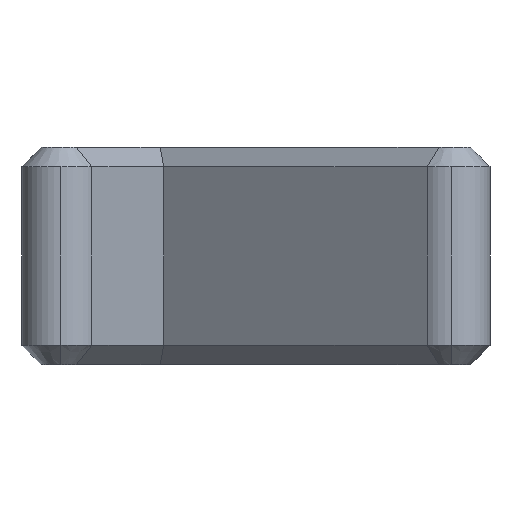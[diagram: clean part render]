
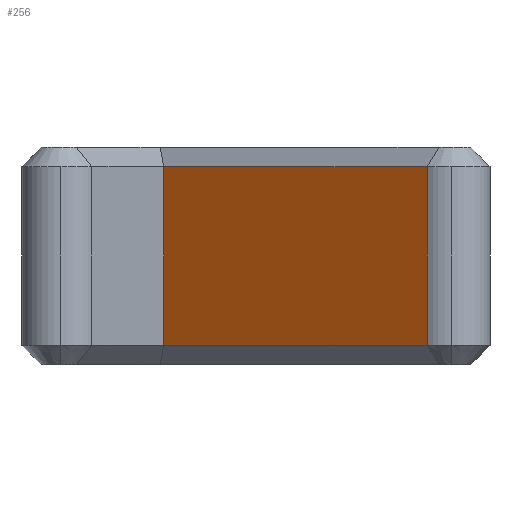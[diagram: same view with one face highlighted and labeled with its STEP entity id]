
A CAD part, front view. The second image highlights one B-rep face of the part: STEP entity #256.
In plain terms, the highlighted planar face has unit normal (-0.613, -0.79, 0).
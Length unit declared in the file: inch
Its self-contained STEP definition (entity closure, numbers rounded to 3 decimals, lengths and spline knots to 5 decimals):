
#20 = AXIS2_PLACEMENT_3D ( 'NONE', #222, #498, #232 ) ;
#131 = VECTOR ( 'NONE', #1048, 39.37008 ) ;
#154 = EDGE_CURVE ( 'NONE', #1400, #467, #1381, .T. ) ;
#179 = EDGE_CURVE ( 'NONE', #590, #940, #1476, .T. ) ;
#207 = ORIENTED_EDGE ( 'NONE', *, *, #179, .T. ) ;
#222 = CARTESIAN_POINT ( 'NONE',  ( -0.15438, -0.08998, -0.31829 ) ) ;
#232 = DIRECTION ( 'NONE',  ( 0.79, -0.613, 0. ) ) ;
#250 = CARTESIAN_POINT ( 'NONE',  ( 0.352, -0.48261, -0.31829 ) ) ;
#256 = ADVANCED_FACE ( 'NONE', ( #757 ), #1026, .F. ) ;
#331 = DIRECTION ( 'NONE',  ( 0.79, -0.613, 0. ) ) ;
#345 = EDGE_CURVE ( 'NONE', #467, #590, #564, .T. ) ;
#447 = ORIENTED_EDGE ( 'NONE', *, *, #154, .T. ) ;
#450 = VECTOR ( 'NONE', #869, 39.37008 ) ;
#467 = VERTEX_POINT ( 'NONE', #1380 ) ;
#490 = VECTOR ( 'NONE', #331, 39.37008 ) ;
#498 = DIRECTION ( 'NONE',  ( 0.613, 0.79, 0. ) ) ;
#508 = DIRECTION ( 'NONE',  ( 0., 0., 1. ) ) ;
#564 = LINE ( 'NONE', #250, #131 ) ;
#590 = VERTEX_POINT ( 'NONE', #611 ) ;
#595 = LINE ( 'NONE', #1423, #1571 ) ;
#611 = CARTESIAN_POINT ( 'NONE',  ( 0.352, -0.48261, 0.06252 ) ) ;
#757 = FACE_OUTER_BOUND ( 'NONE', #1015, .T. ) ;
#869 = DIRECTION ( 'NONE',  ( -0.79, 0.613, 0. ) ) ;
#940 = VERTEX_POINT ( 'NONE', #1300 ) ;
#1002 = ORIENTED_EDGE ( 'NONE', *, *, #345, .T. ) ;
#1015 = EDGE_LOOP ( 'NONE', ( #1726, #447, #1002, #207 ) ) ;
#1026 = PLANE ( 'NONE',  #20 ) ;
#1048 = DIRECTION ( 'NONE',  ( 0., 0., 1. ) ) ;
#1278 = CARTESIAN_POINT ( 'NONE',  ( -0.15438, -0.08998, 0.06252 ) ) ;
#1300 = CARTESIAN_POINT ( 'NONE',  ( -0.15438, -0.08998, 0.06252 ) ) ;
#1380 = CARTESIAN_POINT ( 'NONE',  ( 0.352, -0.48261, -0.28079 ) ) ;
#1381 = LINE ( 'NONE', #1554, #490 ) ;
#1400 = VERTEX_POINT ( 'NONE', #1548 ) ;
#1420 = EDGE_CURVE ( 'NONE', #1400, #940, #595, .T. ) ;
#1423 = CARTESIAN_POINT ( 'NONE',  ( -0.15438, -0.08998, -0.31829 ) ) ;
#1476 = LINE ( 'NONE', #1278, #450 ) ;
#1548 = CARTESIAN_POINT ( 'NONE',  ( -0.15438, -0.08998, -0.28079 ) ) ;
#1554 = CARTESIAN_POINT ( 'NONE',  ( -0.15438, -0.08998, -0.28079 ) ) ;
#1571 = VECTOR ( 'NONE', #508, 39.37008 ) ;
#1726 = ORIENTED_EDGE ( 'NONE', *, *, #1420, .F. ) ;
